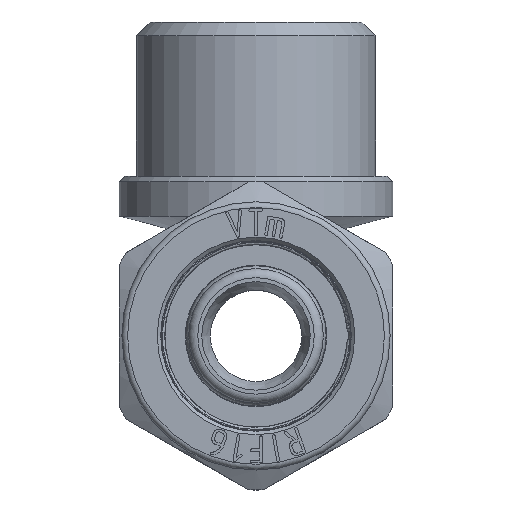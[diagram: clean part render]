
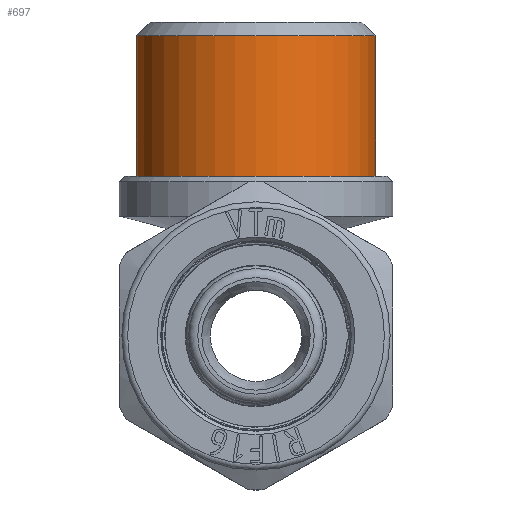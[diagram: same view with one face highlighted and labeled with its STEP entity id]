
A CAD part, front view. The second image highlights one B-rep face of the part: STEP entity #697.
In plain terms, the highlighted cylindrical face has radius 10.477 mm (diameter 20.955 mm), a full revolution.
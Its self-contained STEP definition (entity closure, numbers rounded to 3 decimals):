
#697=ADVANCED_FACE('',(#5202,#5204),#5206,.T.);
#5202=FACE_OUTER_BOUND('',#5203,.T.);
#5203=EDGE_LOOP('',(#10255));
#5204=FACE_OUTER_BOUND('',#5205,.T.);
#5205=EDGE_LOOP('',(#10256));
#5206=CYLINDRICAL_SURFACE('',#5207,10.478);
#5207=AXIS2_PLACEMENT_3D('',#5208,#5209,#5210);
#5208=CARTESIAN_POINT('',(0.,0.,14.));
#5209=DIRECTION('',(0.,0.,1.));
#5210=DIRECTION('',(-1.,0.,0.));
#10255=ORIENTED_EDGE('',*,*,#12435,.F.);
#10256=ORIENTED_EDGE('',*,*,#12359,.F.);
#12359=EDGE_CURVE('',#15375,#15375,#15376,.F.);
#12435=EDGE_CURVE('',#15491,#15491,#15492,.T.);
#15375=VERTEX_POINT('',#23888);
#15376=CIRCLE('',#23889,10.478);
#15491=VERTEX_POINT('',#24160);
#15492=CIRCLE('',#24161,10.478);
#23888=CARTESIAN_POINT('',(-10.478,0.,14.));
#23889=AXIS2_PLACEMENT_3D('',#23890,#23891,#23892);
#23890=CARTESIAN_POINT('',(0.,0.,14.));
#23891=DIRECTION('',(0.,0.,1.));
#23892=DIRECTION('',(-1.,0.,0.));
#24160=CARTESIAN_POINT('',(-10.478,0.,26.3));
#24161=AXIS2_PLACEMENT_3D('',#24162,#24163,#24164);
#24162=CARTESIAN_POINT('',(0.,0.,26.3));
#24163=DIRECTION('',(0.,0.,1.));
#24164=DIRECTION('',(-1.,0.,0.));
